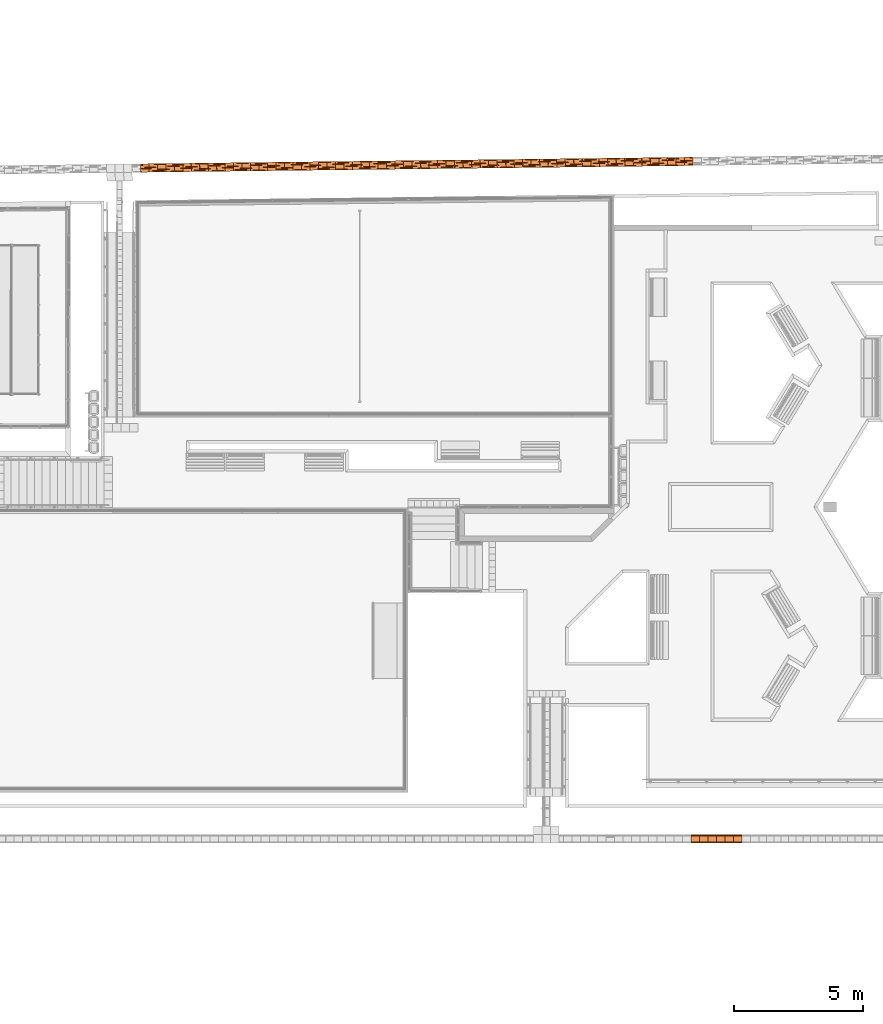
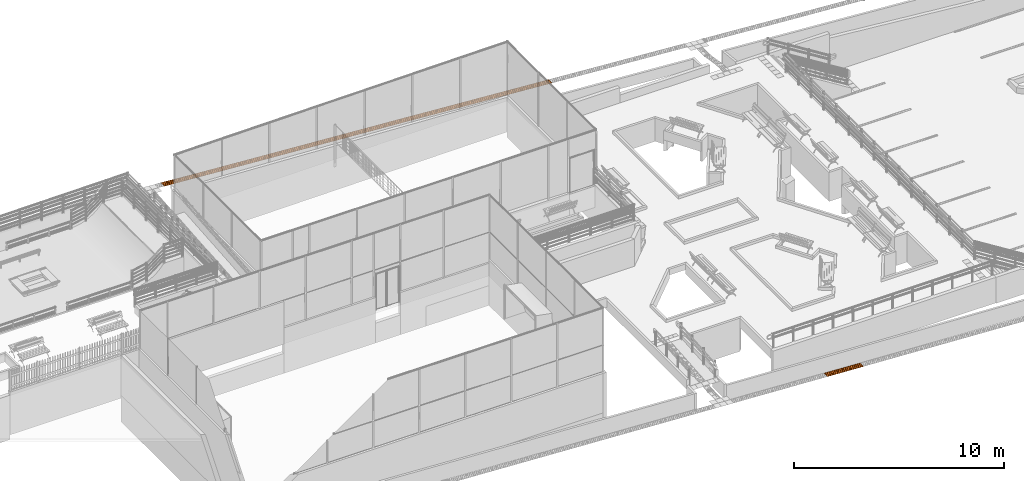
# One storey, part 185 of 237: 71 proxies.
"""IFC2X3 building model written with IfcOpenShell, lengths in millimetres."""

from ifc_helpers import new_model, entity, si_unit, converted_unit, derived_unit, money_unit, direction, frame, origin_with_axes, place, context, subcontext, project, spatial, open_shell, surface_model, source, transform, mapped, type_object, element, save


model = new_model("IFC2X3")

# Units and contexts
model_context = context("Model", 3, precision=0.01, world=origin_with_axes(), true_north=direction((0.0, 1.0)))
body_context = subcontext(model_context, "Body", "Model", "MODEL_VIEW")
ifc_project = project(units=[si_unit("LENGTHUNIT", "METRE", prefix="MILLI"), si_unit("AREAUNIT", "SQUARE_METRE"), si_unit("VOLUMEUNIT", "CUBIC_METRE"), converted_unit("PLANEANGLEUNIT", "DEGREE", entity("IfcPlaneAngleMeasure", 0.0174532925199), si_unit("PLANEANGLEUNIT", "RADIAN"), dimensions=[0, 0, 0, 0, 0, 0, 0]), money_unit("USD"), converted_unit("TIMEUNIT", "Year", entity("IfcTimeMeasure", 31556926.0), si_unit("TIMEUNIT", "SECOND"), dimensions=[0, 0, 1, 0, 0, 0, 0]), si_unit("MASSUNIT", "GRAM", prefix="KILO"), si_unit("THERMODYNAMICTEMPERATUREUNIT", "DEGREE_CELSIUS"), si_unit("LUMINOUSINTENSITYUNIT", "LUMEN"), si_unit("ENERGYUNIT", "JOULE", prefix="MEGA"), derived_unit("THERMALCONDUCTANCEUNIT", [(si_unit("POWERUNIT", "WATT"), 1), (si_unit("LENGTHUNIT", "METRE"), -1), (si_unit("THERMODYNAMICTEMPERATUREUNIT", "KELVIN"), -1)]), derived_unit("SPECIFICHEATCAPACITYUNIT", [(si_unit("ENERGYUNIT", "JOULE"), 1), (si_unit("MASSUNIT", "GRAM", prefix="KILO"), -1), (si_unit("THERMODYNAMICTEMPERATUREUNIT", "KELVIN"), -1)]), derived_unit("MASSDENSITYUNIT", [(si_unit("MASSUNIT", "GRAM", prefix="KILO"), 1), (si_unit("VOLUMEUNIT", "CUBIC_METRE"), -1)])], contexts=[model_context])

# Site, building, storey
site_placement = place(None, origin_with_axes())
site = spatial("IfcSite", under=ifc_project, at=site_placement, Name="Local", CompositionType="ELEMENT")
building_placement = place(site_placement, origin_with_axes())
building = spatial("IfcBuilding", under=site, at=building_placement, Name="Construção", CompositionType="ELEMENT")
storey_placement = place(building_placement, origin_with_axes())
storey = spatial("IfcBuildingStorey", under=building, at=storey_placement, Name="Pavimento Térreo", CompositionType="ELEMENT", Elevation=0.0)

# Proxies
building_element_proxy_type = type_object("IfcBuildingElementProxyType", Name="Piso Direcional 27", PredefinedType="NOTDEFINED")
shared_shape_1 = source(origin_with_axes(), body_context, "Body", "SurfaceModel", [
    surface_model("IfcShellBasedSurfaceModel", [(-0.224878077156, -47.258225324, 4.02223908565), (329.260574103, -47.258225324, 22.4433357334), (328.888430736, -41.665004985, 29.0996074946), (-0.597021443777, -41.665004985, 10.6785108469)], [open_shell([[[0, 1, 2, 3]]])]),
    surface_model("IfcShellBasedSurfaceModel", [(330.004860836, -153.529411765, 9.13079221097), (330.004860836, 176.470588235, 9.13079221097), (329.260574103, 176.470588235, 22.4433357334), (329.260574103, 154.097706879, 22.4433357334), (328.888430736, 148.50448654, 29.0996074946), (328.888430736, 126.131605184, 29.0996074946), (329.260574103, 120.538384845, 22.4433357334), (329.260574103, 70.1994017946, 22.4433357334), (328.888430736, 64.6061814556, 29.0996074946), (328.888430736, 42.2333000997, 29.0996074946), (329.260574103, 36.6400797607, 22.4433357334), (329.260574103, -13.6989032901, 22.4433357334), (328.888430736, -19.2921236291, 29.0996074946), (328.888430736, -41.665004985, 29.0996074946), (329.260574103, -47.258225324, 22.4433357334), (329.260574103, -97.5972083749, 22.4433357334), (328.888430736, -103.190428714, 29.0996074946), (328.888430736, -125.56331007, 29.0996074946), (329.260574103, -131.156530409, 22.4433357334), (329.260574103, -153.529411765, 22.4433357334)], [open_shell([[[0, 1, 2, 3, 4, 5, 6, 7, 8, 9, 10, 11, 12, 13, 14, 15, 16, 17, 18, 19]]])]),
    surface_model("IfcShellBasedSurfaceModel", [(-0.597021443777, -19.2921236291, 10.6785108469), (328.888430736, -19.2921236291, 29.0996074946), (329.260574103, -13.6989032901, 22.4433357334), (-0.224878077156, -13.6989032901, 4.02223908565)], [open_shell([[[0, 1, 2, 3]]])]),
    surface_model("IfcShellBasedSurfaceModel", [(-0.597021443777, -103.190428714, 10.6785108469), (328.888430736, -103.190428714, 29.0996074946), (329.260574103, -97.5972083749, 22.4433357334), (-0.224878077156, -97.5972083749, 4.02223908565)], [open_shell([[[0, 1, 2, 3]]])]),
    surface_model("IfcShellBasedSurfaceModel", [(-0.597021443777, 64.6061814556, 10.6785108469), (328.888430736, 64.6061814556, 29.0996074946), (329.260574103, 70.1994017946, 22.4433357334), (-0.224878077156, 70.1994017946, 4.02223908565)], [open_shell([[[0, 1, 2, 3]]])]),
    surface_model("IfcShellBasedSurfaceModel", [(-0.224878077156, 36.6400797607, 4.02223908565), (329.260574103, 36.6400797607, 22.4433357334), (328.888430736, 42.2333000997, 29.0996074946), (-0.597021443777, 42.2333000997, 10.6785108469)], [open_shell([[[0, 1, 2, 3]]])]),
    surface_model("IfcShellBasedSurfaceModel", [(-0.224878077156, -131.156530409, 4.02223908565), (329.260574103, -131.156530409, 22.4433357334), (328.888430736, -125.56331007, 29.0996074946), (-0.597021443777, -125.56331007, 10.6785108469)], [open_shell([[[0, 1, 2, 3]]])]),
    surface_model("IfcShellBasedSurfaceModel", [(-0.224878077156, 176.470588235, 4.02223908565), (-0.224878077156, 154.097706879, 4.02223908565), (329.260574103, 154.097706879, 22.4433357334), (329.260574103, 176.470588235, 22.4433357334)], [open_shell([[[0, 1, 2, 3]]])]),
    surface_model("IfcShellBasedSurfaceModel", [(-0.224878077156, 120.538384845, 4.02223908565), (329.260574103, 120.538384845, 22.4433357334), (328.888430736, 126.131605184, 29.0996074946), (-0.597021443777, 126.131605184, 10.6785108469)], [open_shell([[[0, 1, 2, 3]]])]),
    surface_model("IfcShellBasedSurfaceModel", [(-0.597021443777, 148.50448654, 10.6785108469), (328.888430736, 148.50448654, 29.0996074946), (329.260574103, 154.097706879, 22.4433357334), (-0.224878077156, 154.097706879, 4.02223908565)], [open_shell([[[0, 1, 2, 3]]])]),
    surface_model("IfcShellBasedSurfaceModel", [(-0.224878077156, 36.6400797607, 4.02223908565), (-0.224878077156, -13.6989032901, 4.02223908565), (329.260574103, -13.6989032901, 22.4433357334), (329.260574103, 36.6400797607, 22.4433357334)], [open_shell([[[0, 1, 2, 3]]])]),
    surface_model("IfcShellBasedSurfaceModel", [(-0.224878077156, 120.538384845, 4.02223908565), (-0.224878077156, 70.1994017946, 4.02223908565), (329.260574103, 70.1994017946, 22.4433357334), (329.260574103, 120.538384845, 22.4433357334)], [open_shell([[[0, 1, 2, 3]]])]),
    surface_model("IfcShellBasedSurfaceModel", [(-0.597021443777, 148.50448654, 10.6785108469), (-0.597021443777, 126.131605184, 10.6785108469), (328.888430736, 126.131605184, 29.0996074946), (328.888430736, 148.50448654, 29.0996074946)], [open_shell([[[0, 1, 2, 3]]])]),
    surface_model("IfcShellBasedSurfaceModel", [(-0.224878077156, 120.538384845, 4.02223908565), (-0.597021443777, 126.131605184, 10.6785108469), (-0.597021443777, 148.50448654, 10.6785108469), (-0.224878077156, 154.097706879, 4.02223908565), (-0.224878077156, 176.470588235, 4.02223908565), (0.519408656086, 176.470588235, -9.29030443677), (0.519408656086, -153.529411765, -9.29030443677), (-0.224878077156, -153.529411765, 4.02223908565), (-0.224878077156, -131.156530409, 4.02223908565), (-0.597021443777, -125.56331007, 10.6785108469), (-0.597021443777, -103.190428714, 10.6785108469), (-0.224878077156, -97.5972083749, 4.02223908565), (-0.224878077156, -47.258225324, 4.02223908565), (-0.597021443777, -41.665004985, 10.6785108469), (-0.597021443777, -19.2921236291, 10.6785108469), (-0.224878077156, -13.6989032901, 4.02223908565), (-0.224878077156, 36.6400797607, 4.02223908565), (-0.597021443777, 42.2333000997, 10.6785108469), (-0.597021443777, 64.6061814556, 10.6785108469), (-0.224878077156, 70.1994017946, 4.02223908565)], [open_shell([[[0, 1, 2, 3, 4, 5, 6, 7, 8, 9, 10, 11, 12, 13, 14, 15, 16, 17, 18, 19]]])]),
    surface_model("IfcShellBasedSurfaceModel", [(328.888430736, -41.665004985, 29.0996074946), (328.888430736, -19.2921236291, 29.0996074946), (-0.597021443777, -19.2921236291, 10.6785108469), (-0.597021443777, -41.665004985, 10.6785108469)], [open_shell([[[0, 1, 2, 3]]])]),
    surface_model("IfcShellBasedSurfaceModel", [(-0.224878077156, -47.258225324, 4.02223908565), (-0.224878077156, -97.5972083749, 4.02223908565), (329.260574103, -97.5972083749, 22.4433357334), (329.260574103, -47.258225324, 22.4433357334)], [open_shell([[[0, 1, 2, 3]]])]),
    surface_model("IfcShellBasedSurfaceModel", [(328.888430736, 42.2333000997, 29.0996074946), (328.888430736, 64.6061814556, 29.0996074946), (-0.597021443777, 64.6061814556, 10.6785108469), (-0.597021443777, 42.2333000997, 10.6785108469)], [open_shell([[[0, 1, 2, 3]]])]),
    surface_model("IfcShellBasedSurfaceModel", [(328.888430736, -125.56331007, 29.0996074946), (328.888430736, -103.190428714, 29.0996074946), (-0.597021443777, -103.190428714, 10.6785108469), (-0.597021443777, -125.56331007, 10.6785108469)], [open_shell([[[0, 1, 2, 3]]])]),
    surface_model("IfcShellBasedSurfaceModel", [(330.004860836, 176.470588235, 9.13079221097), (0.519408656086, 176.470588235, -9.29030443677), (-0.224878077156, 176.470588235, 4.02223908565), (329.260574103, 176.470588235, 22.4433357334)], [open_shell([[[0, 1, 2, 3]]])]),
    surface_model("IfcShellBasedSurfaceModel", [(330.004860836, -153.529411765, 9.13079221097), (0.519408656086, -153.529411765, -9.29030443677), (0.519408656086, 176.470588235, -9.29030443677), (330.004860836, 176.470588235, 9.13079221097)], [open_shell([[[0, 1, 2, 3]]])]),
    surface_model("IfcShellBasedSurfaceModel", [(329.260574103, -153.529411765, 22.4433357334), (329.260574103, -131.156530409, 22.4433357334), (-0.224878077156, -131.156530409, 4.02223908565), (-0.224878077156, -153.529411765, 4.02223908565)], [open_shell([[[0, 1, 2, 3]]])]),
    surface_model("IfcShellBasedSurfaceModel", [(0.519408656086, -153.529411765, -9.29030443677), (330.004860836, -153.529411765, 9.13079221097), (329.260574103, -153.529411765, 22.4433357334), (-0.224878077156, -153.529411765, 4.02223908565)], [open_shell([[[0, 1, 2, 3]]])]),
])
for number, where, z_axis, x_axis, name in (
    (1, (90422.7646704, 10834.0941893, -5667.88270274), (0.0, 0.0, 1.0), (-1.0, 0.0, 0.0), "Objeto-0055"),
    (2, (91744.6242161, 10834.0941893, -5736.90998539), (0.0, 0.0, 1.0), (-1.0, 0.0, 0.0), "Objeto-0055"),
    (3, (90753.5349361, 10834.0125185, -5685.15547025), (0.0, 0.0, 1.0), (-1.0, 0.0, 0.0), "Objeto-0055"),
    (4, (90091.9944047, 10834.0941893, -5650.60993522), (0.0, 0.0, 1.0), (-1.0, 0.0, 0.0), "Objeto-0055"),
    (5, (91084.3052017, 10834.0941893, -5702.42823777), (0.0, 0.0, 1.0), (-1.0, 0.0, 0.0), "Objeto-0055"),
    (6, (91413.8786752, 10834.0941893, -5719.11471166), (0.0, 0.0, 1.0), (-1.0, 0.0, 0.0), "Objeto-0055"),
):
    element("IfcBuildingElementProxy", number, at=place(storey_placement, frame(where, z_axis=z_axis, x_axis=x_axis)), inside=storey, type_object=building_element_proxy_type, Name=name, context=body_context, shape_type="MappedRepresentation", body=[
        mapped(shared_shape_1, transform((0.0, 0.0, 0.0))),
    ])
shared_shape_2 = source(origin_with_axes(), body_context, "Body", "SurfaceModel", [
    surface_model("IfcShellBasedSurfaceModel", [(-0.309064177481, -47.258225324, 4.01664745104), (328.718344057, -47.258225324, 29.3339267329), (328.20688387, -41.665004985, 35.9809450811), (-0.820524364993, -41.665004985, 10.6636657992)], [open_shell([[[0, 1, 2, 3]]])]),
    surface_model("IfcShellBasedSurfaceModel", [(329.741264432, -153.529411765, 16.0398900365), (329.741264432, 176.470588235, 16.0398900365), (328.718344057, 176.470588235, 29.3339267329), (328.718344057, 154.097706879, 29.3339267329), (328.20688387, 148.50448654, 35.9809450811), (328.20688387, 126.131605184, 35.9809450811), (328.718344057, 120.538384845, 29.3339267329), (328.718344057, 70.1994017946, 29.3339267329), (328.20688387, 64.6061814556, 35.9809450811), (328.20688387, 42.2333000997, 35.9809450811), (328.718344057, 36.6400797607, 29.3339267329), (328.718344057, -13.6989032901, 29.3339267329), (328.20688387, -19.2921236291, 35.9809450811), (328.20688387, -41.665004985, 35.9809450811), (328.718344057, -47.258225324, 29.3339267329), (328.718344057, -97.5972083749, 29.3339267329), (328.20688387, -103.190428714, 35.9809450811), (328.20688387, -125.56331007, 35.9809450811), (328.718344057, -131.156530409, 29.3339267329), (328.718344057, -153.529411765, 29.3339267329)], [open_shell([[[0, 1, 2, 3, 4, 5, 6, 7, 8, 9, 10, 11, 12, 13, 14, 15, 16, 17, 18, 19]]])]),
    surface_model("IfcShellBasedSurfaceModel", [(-0.820524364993, -19.2921236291, 10.6636657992), (328.20688387, -19.2921236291, 35.9809450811), (328.718344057, -13.6989032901, 29.3339267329), (-0.309064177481, -13.6989032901, 4.01664745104)], [open_shell([[[0, 1, 2, 3]]])]),
    surface_model("IfcShellBasedSurfaceModel", [(-0.820524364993, -103.190428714, 10.6636657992), (328.20688387, -103.190428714, 35.9809450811), (328.718344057, -97.5972083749, 29.3339267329), (-0.309064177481, -97.5972083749, 4.01664745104)], [open_shell([[[0, 1, 2, 3]]])]),
    surface_model("IfcShellBasedSurfaceModel", [(-0.820524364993, 64.6061814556, 10.6636657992), (328.20688387, 64.6061814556, 35.9809450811), (328.718344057, 70.1994017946, 29.3339267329), (-0.309064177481, 70.1994017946, 4.01664745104)], [open_shell([[[0, 1, 2, 3]]])]),
    surface_model("IfcShellBasedSurfaceModel", [(-0.309064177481, 36.6400797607, 4.01664745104), (328.718344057, 36.6400797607, 29.3339267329), (328.20688387, 42.2333000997, 35.9809450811), (-0.820524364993, 42.2333000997, 10.6636657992)], [open_shell([[[0, 1, 2, 3]]])]),
    surface_model("IfcShellBasedSurfaceModel", [(-0.309064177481, -131.156530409, 4.01664745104), (328.718344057, -131.156530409, 29.3339267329), (328.20688387, -125.56331007, 35.9809450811), (-0.820524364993, -125.56331007, 10.6636657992)], [open_shell([[[0, 1, 2, 3]]])]),
    surface_model("IfcShellBasedSurfaceModel", [(-0.309064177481, 176.470588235, 4.01664745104), (-0.309064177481, 154.097706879, 4.01664745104), (328.718344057, 154.097706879, 29.3339267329), (328.718344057, 176.470588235, 29.3339267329)], [open_shell([[[0, 1, 2, 3]]])]),
    surface_model("IfcShellBasedSurfaceModel", [(-0.309064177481, 120.538384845, 4.01664745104), (328.718344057, 120.538384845, 29.3339267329), (328.20688387, 126.131605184, 35.9809450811), (-0.820524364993, 126.131605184, 10.6636657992)], [open_shell([[[0, 1, 2, 3]]])]),
    surface_model("IfcShellBasedSurfaceModel", [(-0.820524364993, 148.50448654, 10.6636657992), (328.20688387, 148.50448654, 35.9809450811), (328.718344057, 154.097706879, 29.3339267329), (-0.309064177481, 154.097706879, 4.01664745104)], [open_shell([[[0, 1, 2, 3]]])]),
    surface_model("IfcShellBasedSurfaceModel", [(-0.309064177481, 36.6400797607, 4.01664745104), (-0.309064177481, -13.6989032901, 4.01664745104), (328.718344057, -13.6989032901, 29.3339267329), (328.718344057, 36.6400797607, 29.3339267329)], [open_shell([[[0, 1, 2, 3]]])]),
    surface_model("IfcShellBasedSurfaceModel", [(-0.309064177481, 120.538384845, 4.01664745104), (-0.309064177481, 70.1994017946, 4.01664745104), (328.718344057, 70.1994017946, 29.3339267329), (328.718344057, 120.538384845, 29.3339267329)], [open_shell([[[0, 1, 2, 3]]])]),
    surface_model("IfcShellBasedSurfaceModel", [(-0.820524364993, 148.50448654, 10.6636657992), (-0.820524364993, 126.131605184, 10.6636657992), (328.20688387, 126.131605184, 35.9809450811), (328.20688387, 148.50448654, 35.9809450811)], [open_shell([[[0, 1, 2, 3]]])]),
    surface_model("IfcShellBasedSurfaceModel", [(-0.309064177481, 120.538384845, 4.01664745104), (-0.820524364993, 126.131605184, 10.6636657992), (-0.820524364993, 148.50448654, 10.6636657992), (-0.309064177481, 154.097706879, 4.01664745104), (-0.309064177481, 176.470588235, 4.01664745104), (0.713856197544, 176.470588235, -9.27738924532), (0.713856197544, -153.529411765, -9.27738924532), (-0.309064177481, -153.529411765, 4.01664745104), (-0.309064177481, -131.156530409, 4.01664745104), (-0.820524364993, -125.56331007, 10.6636657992), (-0.820524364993, -103.190428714, 10.6636657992), (-0.309064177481, -97.5972083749, 4.01664745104), (-0.309064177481, -47.258225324, 4.01664745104), (-0.820524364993, -41.665004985, 10.6636657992), (-0.820524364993, -19.2921236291, 10.6636657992), (-0.309064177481, -13.6989032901, 4.01664745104), (-0.309064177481, 36.6400797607, 4.01664745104), (-0.820524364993, 42.2333000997, 10.6636657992), (-0.820524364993, 64.6061814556, 10.6636657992), (-0.309064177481, 70.1994017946, 4.01664745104)], [open_shell([[[0, 1, 2, 3, 4, 5, 6, 7, 8, 9, 10, 11, 12, 13, 14, 15, 16, 17, 18, 19]]])]),
    surface_model("IfcShellBasedSurfaceModel", [(328.20688387, -41.665004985, 35.9809450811), (328.20688387, -19.2921236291, 35.9809450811), (-0.820524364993, -19.2921236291, 10.6636657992), (-0.820524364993, -41.665004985, 10.6636657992)], [open_shell([[[0, 1, 2, 3]]])]),
    surface_model("IfcShellBasedSurfaceModel", [(-0.309064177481, -47.258225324, 4.01664745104), (-0.309064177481, -97.5972083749, 4.01664745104), (328.718344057, -97.5972083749, 29.3339267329), (328.718344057, -47.258225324, 29.3339267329)], [open_shell([[[0, 1, 2, 3]]])]),
    surface_model("IfcShellBasedSurfaceModel", [(328.20688387, 42.2333000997, 35.9809450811), (328.20688387, 64.6061814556, 35.9809450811), (-0.820524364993, 64.6061814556, 10.6636657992), (-0.820524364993, 42.2333000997, 10.6636657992)], [open_shell([[[0, 1, 2, 3]]])]),
    surface_model("IfcShellBasedSurfaceModel", [(328.20688387, -125.56331007, 35.9809450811), (328.20688387, -103.190428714, 35.9809450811), (-0.820524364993, -103.190428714, 10.6636657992), (-0.820524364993, -125.56331007, 10.6636657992)], [open_shell([[[0, 1, 2, 3]]])]),
    surface_model("IfcShellBasedSurfaceModel", [(329.741264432, 176.470588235, 16.0398900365), (0.713856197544, 176.470588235, -9.27738924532), (-0.309064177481, 176.470588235, 4.01664745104), (328.718344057, 176.470588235, 29.3339267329)], [open_shell([[[0, 1, 2, 3]]])]),
    surface_model("IfcShellBasedSurfaceModel", [(329.741264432, -153.529411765, 16.0398900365), (0.713856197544, -153.529411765, -9.27738924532), (0.713856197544, 176.470588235, -9.27738924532), (329.741264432, 176.470588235, 16.0398900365)], [open_shell([[[0, 1, 2, 3]]])]),
    surface_model("IfcShellBasedSurfaceModel", [(328.718344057, -153.529411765, 29.3339267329), (328.718344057, -131.156530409, 29.3339267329), (-0.309064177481, -131.156530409, 4.01664745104), (-0.309064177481, -153.529411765, 4.01664745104)], [open_shell([[[0, 1, 2, 3]]])]),
    surface_model("IfcShellBasedSurfaceModel", [(0.713856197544, -153.529411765, -9.27738924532), (329.741264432, -153.529411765, 16.0398900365), (328.718344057, -153.529411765, 29.3339267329), (-0.309064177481, -153.529411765, 4.01664745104)], [open_shell([[[0, 1, 2, 3]]])]),
])
for number, where, z_axis, x_axis, name in (
    (7, (77281.015635, 36986.0509038, -3579.77639235), (0.0, 0.0, 1.0), (-0.999926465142, -0.012127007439, 0.0), "Objeto-0055"),
    (8, (81905.2269893, 37042.1328733, -3933.68350429), (0.0, 0.0, 1.0), (-0.999926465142, -0.012127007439, 0.0), "Objeto-0055"),
    (9, (80914.0251106, 37030.1116767, -3857.85508137), (0.0, 0.0, 1.0), (-0.999926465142, -0.012127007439, 0.0), "Objeto-0055"),
    (10, (85538.236465, 37086.1936462, -4222.33722682), (0.0, 0.0, 1.0), (-0.999926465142, -0.012127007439, 0.0), "Objeto-0055"),
    (11, (71340.7024198, 36914.0073835, -3121.83165456), (0.0, 0.0, 1.0), (-0.999926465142, -0.012127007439, 0.0), "Objeto-0055"),
    (12, (77611.4162612, 36990.0579693, -3605.05253332), (0.0, 0.0, 1.0), (-0.999926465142, -0.012127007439, 0.0), "Objeto-0055"),
    (13, (76950.6150088, 36982.0438383, -3554.50025137), (0.0, 0.0, 1.0), (-0.999926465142, -0.012127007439, 0.0), "Objeto-0055"),
    (14, (70681.449493, 36906.0120304, -3069.10318078), (0.0, 0.0, 1.0), (-0.999926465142, -0.012127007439, 0.0), "Objeto-0055"),
    (15, (72657.7954417, 36929.980955, -3222.78566246), (0.0, 0.0, 1.0), (-0.999926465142, -0.012127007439, 0.0), "Objeto-0055"),
    (16, (78272.2175137, 36998.0721003, -3655.60481527), (0.0, 0.0, 1.0), (-0.999926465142, -0.012127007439, 0.0), "Objeto-0055"),
    (17, (75960.810543, 36970.0395894, -3478.63069014), (0.0, 0.0, 1.0), (-0.999926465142, -0.012127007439, 0.0), "Objeto-0055"),
    (18, (78933.0187662, 37006.0862313, -3706.15709722), (0.0, 0.0, 1.0), (-0.999926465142, -0.012127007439, 0.0), "Objeto-0055"),
    (19, (78602.61814, 37002.0791658, -3680.88095624), (0.0, 0.0, 1.0), (-0.999926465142, -0.012127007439, 0.0), "Objeto-0055"),
    (20, (79922.8232319, 37018.0904802, -3782.02665845), (0.0, 0.0, 1.0), (-0.999926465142, -0.012127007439, 0.0), "Objeto-0055"),
    (21, (80253.2238582, 37022.0975457, -3807.30279942), (0.0, 0.0, 1.0), (-0.999926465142, -0.012127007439, 0.0), "Objeto-0055"),
    (22, (79263.4193924, 37010.0932969, -3731.43323819), (0.0, 0.0, 1.0), (-0.999926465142, -0.012127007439, 0.0), "Objeto-0055"),
    (23, (80583.6244844, 37026.1046112, -3832.5789404), (0.0, 0.0, 1.0), (-0.999926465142, -0.012127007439, 0.0), "Objeto-0055"),
    (24, (81574.8263631, 37038.1258078, -3908.40736332), (0.0, 0.0, 1.0), (-0.999926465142, -0.012127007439, 0.0), "Objeto-0055"),
    (25, (75630.4099168, 36966.0325239, -3453.35454917), (0.0, 0.0, 1.0), (-0.999926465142, -0.012127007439, 0.0), "Objeto-0055"),
    (26, (81244.4257369, 37034.1187422, -3883.13122234), (0.0, 0.0, 1.0), (-0.999926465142, -0.012127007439, 0.0), "Objeto-0055"),
    (27, (82235.6276156, 37046.1399388, -3958.95964527), (0.0, 0.0, 1.0), (-0.999926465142, -0.012127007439, 0.0), "Objeto-0055"),
    (28, (82566.0282418, 37050.1470043, -3988.49105681), (0.0, 0.0, 1.0), (-0.999926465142, -0.012127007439, 0.0), "Objeto-0055"),
    (29, (82896.428868, 37054.1540698, -4013.76719779), (0.0, 0.0, 1.0), (-0.999926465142, -0.012127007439, 0.0), "Objeto-0055"),
    (30, (83225.4320813, 37058.1441876, -4039.08447707), (0.0, 0.0, 1.0), (-0.999926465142, -0.012127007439, 0.0), "Objeto-0055"),
    (31, (83555.8327075, 37062.1512531, -4068.16642889), (0.0, 0.0, 1.0), (-0.999926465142, -0.012127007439, 0.0), "Objeto-0055"),
    (32, (83886.2333338, 37066.1583186, -4093.44256986), (0.0, 0.0, 1.0), (-0.999926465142, -0.012127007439, 0.0), "Objeto-0055"),
    (33, (84216.63396, 37070.1653842, -4118.71871084), (0.0, 0.0, 1.0), (-0.999926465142, -0.012127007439, 0.0), "Objeto-0055"),
    (34, (84877.4352125, 37078.1795152, -4169.27099278), (0.0, 0.0, 1.0), (-0.999926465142, -0.012127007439, 0.0), "Objeto-0055"),
    (35, (85868.6370912, 37090.2007117, -4247.61336779), (0.0, 0.0, 1.0), (-0.999926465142, -0.012127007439, 0.0), "Objeto-0055"),
    (36, (86199.0377174, 37094.2077772, -4272.88950877), (0.0, 0.0, 1.0), (-0.999926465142, -0.012127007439, 0.0), "Objeto-0055"),
    (37, (86527.9385875, 37098.1966538, -4299.53695417), (0.0, 0.0, 1.0), (-0.999926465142, -0.012127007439, 0.0), "Objeto-0055"),
    (38, (86858.3392137, 37102.2037194, -4325.99288593), (0.0, 0.0, 1.0), (-0.999926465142, -0.012127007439, 0.0), "Objeto-0055"),
    (39, (87188.73984, 37106.2107849, -4352.09493071), (0.0, 0.0, 1.0), (-0.999926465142, -0.012127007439, 0.0), "Objeto-0055"),
    (40, (87519.1404662, 37110.2178504, -4377.478837), (0.0, 0.0, 1.0), (-0.999926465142, -0.012127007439, 0.0), "Objeto-0055"),
    (41, (87849.5410925, 37114.2249159, -4404.64882481), (0.0, 0.0, 1.0), (-0.999926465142, -0.012127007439, 0.0), "Objeto-0055"),
    (42, (88179.9417187, 37118.2319814, -4429.03380499), (0.0, 0.0, 1.0), (-0.999926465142, -0.012127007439, 0.0), "Objeto-0055"),
    (43, (88510.3423449, 37122.2390469, -4456.40678831), (0.0, 0.0, 1.0), (-0.999926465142, -0.012127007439, 0.0), "Objeto-0055"),
    (44, (88840.7429712, 37126.2461124, -4482.61986692), (0.0, 0.0, 1.0), (-0.999926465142, -0.012127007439, 0.0), "Objeto-0055"),
    (45, (89171.1435974, 37130.2531779, -4508.47319134), (0.0, 0.0, 1.0), (-0.999926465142, -0.012127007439, 0.0), "Objeto-0055"),
    (46, (89501.5442236, 37134.2602434, -4533.76681077), (0.0, 0.0, 1.0), (-0.999926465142, -0.012127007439, 0.0), "Objeto-0055"),
    (47, (89832.0607719, 37138.2687148, -4560.10042808), (0.0, 0.0, 1.0), (-0.999926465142, -0.012127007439, 0.0), "Objeto-0055"),
    (48, (85207.8358387, 37082.1865807, -4194.54713376), (0.0, 0.0, 1.0), (-0.999926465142, -0.012127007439, 0.0), "Objeto-0055"),
    (49, (79593.8200187, 37014.1003624, -3756.70937917), (0.0, 0.0, 1.0), (-0.999926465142, -0.012127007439, 0.0), "Objeto-0055"),
    (50, (76620.2143825, 36978.0367728, -3529.2241104), (0.0, 0.0, 1.0), (-0.999926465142, -0.012127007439, 0.0), "Objeto-0055"),
    (51, (76291.2111693, 36974.0466549, -3503.90683112), (0.0, 0.0, 1.0), (-0.999926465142, -0.012127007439, 0.0), "Objeto-0055"),
    (52, (77941.8168875, 36994.0650348, -3630.3286743), (0.0, 0.0, 1.0), (-0.999926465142, -0.012127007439, 0.0), "Objeto-0055"),
    (53, (71670.111885, 36918.0024283, -3147.18019553), (0.0, 0.0, 1.0), (-0.999926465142, -0.012127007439, 0.0), "Objeto-0055"),
    (54, (71998.9765113, 36921.9908654, -3172.08858053), (0.0, 0.0, 1.0), (-0.999926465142, -0.012127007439, 0.0), "Objeto-0055"),
    (55, (72328.3859765, 36925.9859102, -3197.4371215), (0.0, 0.0, 1.0), (-0.999926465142, -0.012127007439, 0.0), "Objeto-0055"),
    (56, (72987.2049069, 36933.9759998, -3251.14542138), (0.0, 0.0, 1.0), (-0.999926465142, -0.012127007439, 0.0), "Objeto-0055"),
    (57, (73317.6055331, 36937.9830653, -3276.42156235), (0.0, 0.0, 1.0), (-0.999926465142, -0.012127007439, 0.0), "Objeto-0055"),
    (58, (73648.0061594, 36941.9901308, -3301.69770333), (0.0, 0.0, 1.0), (-0.999926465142, -0.012127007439, 0.0), "Objeto-0055"),
    (59, (73978.4067856, 36945.9971964, -3326.9738443), (0.0, 0.0, 1.0), (-0.999926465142, -0.012127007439, 0.0), "Objeto-0055"),
    (60, (74308.8074119, 36950.0042619, -3352.24998527), (0.0, 0.0, 1.0), (-0.999926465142, -0.012127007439, 0.0), "Objeto-0055"),
    (61, (74639.2080381, 36954.0113274, -3377.52612625), (0.0, 0.0, 1.0), (-0.999926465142, -0.012127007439, 0.0), "Objeto-0055"),
    (62, (74969.6086643, 36958.0183929, -3402.80226722), (0.0, 0.0, 1.0), (-0.999926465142, -0.012127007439, 0.0), "Objeto-0055"),
    (63, (75300.0092906, 36962.0254584, -3428.0784082), (0.0, 0.0, 1.0), (-0.999926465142, -0.012127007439, 0.0), "Objeto-0055"),
    (64, (69364.349397, 36890.0383732, -2966.15367499), (0.0, 0.0, 1.0), (-0.999926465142, -0.012127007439, 0.0), "Objeto-0055"),
    (65, (69034.9479336, 36886.0434254, -2940.7015587), (0.0, 0.0, 1.0), (-0.999926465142, -0.012127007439, 0.0), "Objeto-0055"),
    (66, (68705.8777256, 36882.0484776, -2910.50371211), (0.0, 0.0, 1.0), (-0.999926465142, -0.012127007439, 0.0), "Objeto-0055"),
    (67, (69692.4667461, 36894.0177473, -2991.61597453), (0.0, 0.0, 1.0), (-0.999926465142, -0.012127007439, 0.0), "Objeto-0055"),
    (68, (84547.0345862, 37074.1724497, -4143.99485181), (0.0, 0.0, 1.0), (-0.999926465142, -0.012127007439, 0.0), "Objeto-0055"),
    (69, (71010.7481158, 36910.005731, -3096.04295764), (0.0, 0.0, 1.0), (-0.999926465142, -0.012127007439, 0.0), "Objeto-0055"),
    (70, (70022.7014951, 36898.0228011, -3017.50045878), (0.0, 0.0, 1.0), (-0.999926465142, -0.012127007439, 0.0), "Objeto-0055"),
    (71, (70352.0833429, 36902.017511, -3043.30243461), (0.0, 0.0, 1.0), (-0.999926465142, -0.012127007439, 0.0), "Objeto-0055"),
):
    element("IfcBuildingElementProxy", number, at=place(storey_placement, frame(where, z_axis=z_axis, x_axis=x_axis)), inside=storey, type_object=building_element_proxy_type, Name=name, context=body_context, shape_type="MappedRepresentation", body=[
        mapped(shared_shape_2, transform((0.0, 0.0, 0.0))),
    ])

save(model, "model.ifc")
